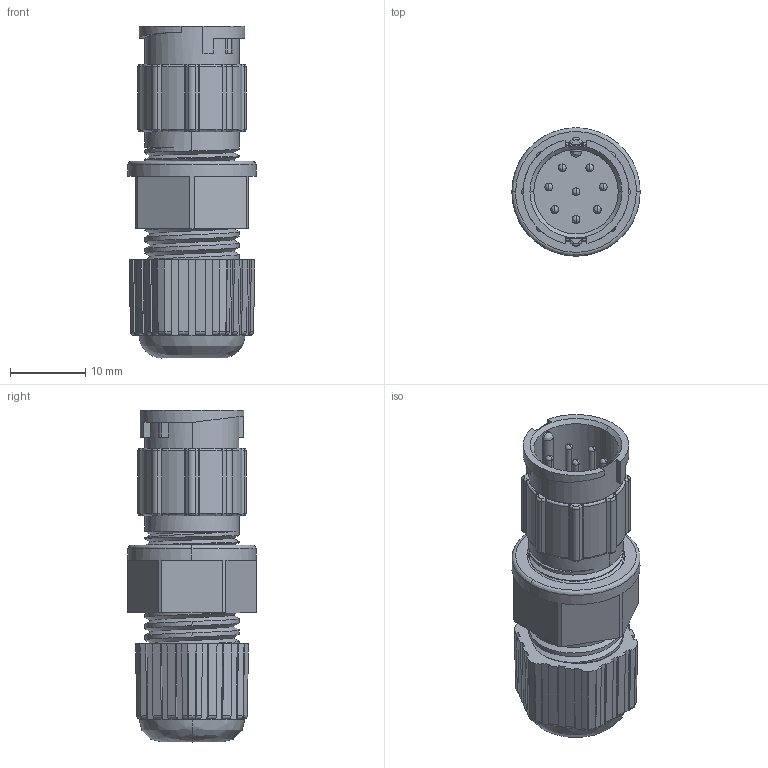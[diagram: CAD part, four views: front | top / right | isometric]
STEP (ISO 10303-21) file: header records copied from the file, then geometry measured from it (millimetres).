
FILE_DESCRIPTION (( 'STEP AP203' ), '1' );
FILE_NAME ('868-008-103KIT.STEP', '2025-12-17T18:21:26', ( '' ), ( '' ), 'SwSTEP 2.0', 'SolidWorks 2020', '' );
FILE_SCHEMA (( 'CONFIG_CONTROL_DESIGN' ));
Length unit declared in the file: millimetre
Products named in the file (1): 868-008-103KIT
Bounding box: 17 x 17 x 44 mm (x, y, z)
Volume: 4737.4 mm3; surface area: 6036.5 mm2
Topology: 1 solids, 1 shells, 698 faces, 1814 edges, 1102 vertices
Faces by surface type: cylinder 268, plane 202, bspline 150, cone 78
Entity records: 35015 total; most frequent: CARTESIAN_POINT 19771, ORIENTED_EDGE 3562, DIRECTION 2613, EDGE_CURVE 1781, VERTEX_POINT 1102, AXIS2_PLACEMENT_3D 971, EDGE_LOOP 733, FACE_OUTER_BOUND 698
